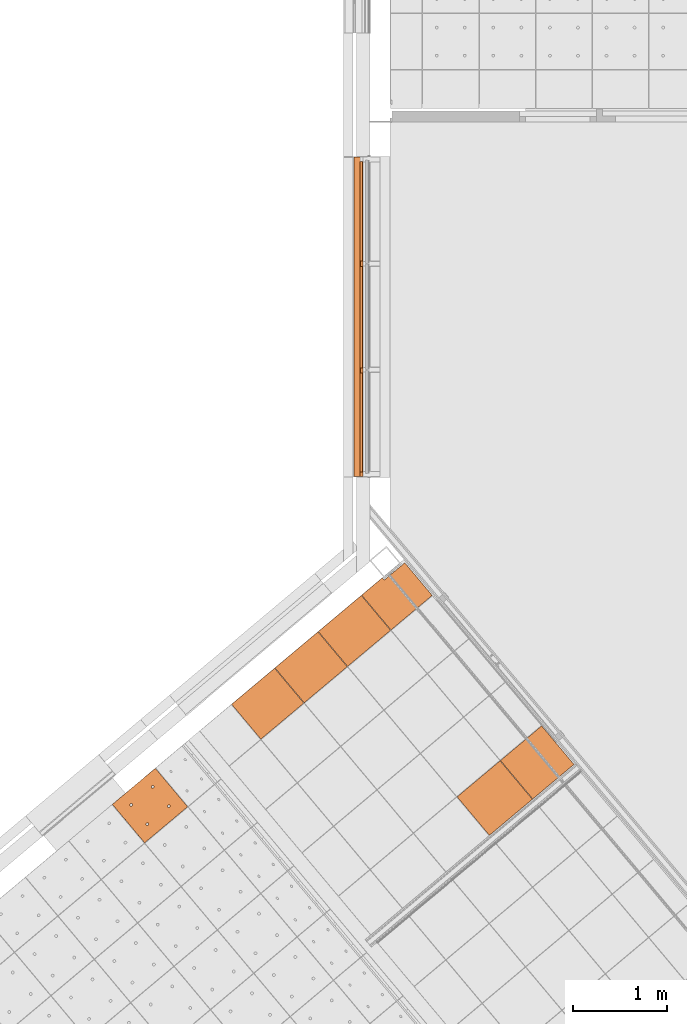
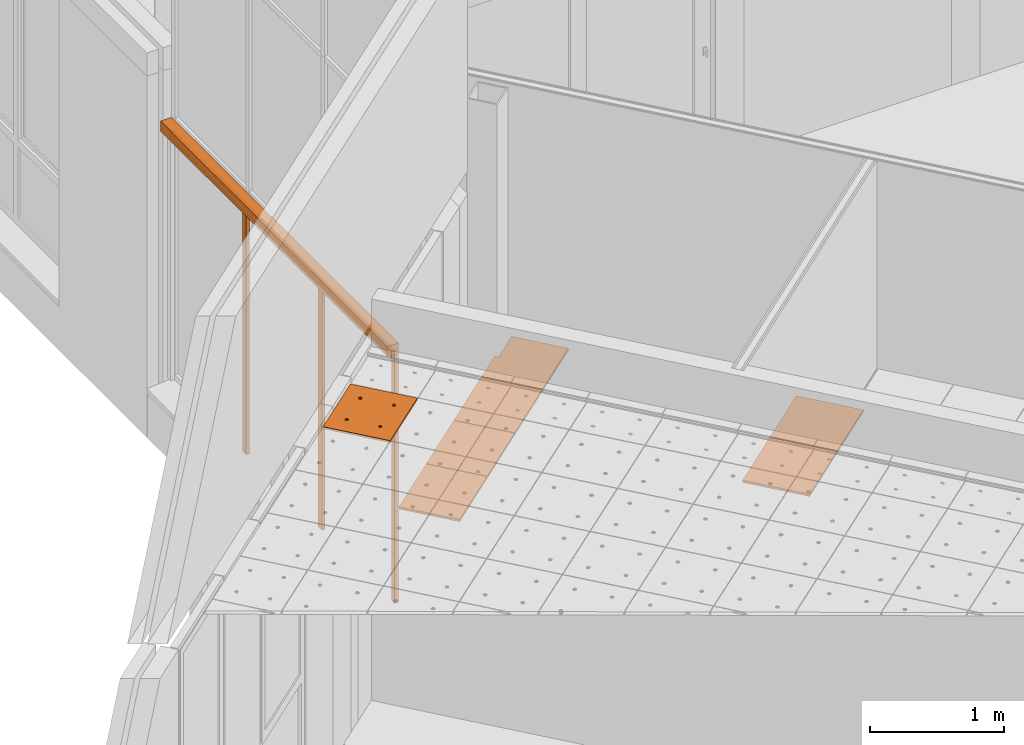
# One storey, part 315 of 338: 12 proxies, 2 elements without a shape of their own.
"""IFC2X3 building model written with IfcOpenShell, lengths in millimetres."""

import ifcopenshell
import ifcopenshell.guid

model = None  # the IFC model being written
_history = None  # IfcOwnerHistory: only IFC2X3 demands one
_inside = {}  # id of a spatial element -> (the spatial element, [elements in it])
_under = {}  # id of a project, library or spatial element -> (it, [spatial elements below it])
_declared = {}  # id of a project -> (the project, [libraries it declares])
_typed = {}  # id of a type object -> (the type object, [elements of that type])
_made_of = {}  # id of a material, layer set ... -> (it, [elements and type objects made of it])


def new_model(schema):
    """Start an empty IFC model of exactly this schema.

    Asked for "IFC4X3", IfcOpenShell would pick the latest addendum, in which some entities
    have other attributes; the version numbers below select the first issue.
    IFC2X3 requires an IfcOwnerHistory on every rooted entity: one is made here for all.
    """
    global model, _history
    if schema == "IFC4X3":
        model = ifcopenshell.file(schema_version=(4, 3, 0, 0))
    else:
        model = ifcopenshell.file(schema=schema)
    _inside.clear()
    _under.clear()
    _declared.clear()
    _typed.clear()
    _made_of.clear()
    _history = None
    if model.schema == "IFC2X3":
        org = make("IfcOrganization", Name="unknown")
        user = make(
            "IfcPersonAndOrganization",
            ThePerson=make("IfcPerson", FamilyName="unknown"),
            TheOrganization=org,
        )
        app = make(
            "IfcApplication",
            ApplicationDeveloper=org,
            Version="unknown",
            ApplicationFullName="unknown",
            ApplicationIdentifier="unknown",
        )
        _history = make(
            "IfcOwnerHistory",
            OwningUser=user,
            OwningApplication=app,
            ChangeAction="ADDED",
            CreationDate=0,
        )
    return model


def make(cls, **values):
    """One entity of the class cls with the attributes given. An attribute that is None is left unset."""
    return model.create_entity(
        cls, **{name: value for name, value in values.items() if value is not None}
    )


def entity(cls, *values):
    """Any entity or typed value of the class cls, its attributes in the order of the schema. None: left unset."""
    e = model.create_entity(cls)
    for i, value in enumerate(values):
        if value is not None:
            e[i] = value
    return e


def rooted(cls, **values):
    """An entity with a GlobalId (a new one), such as an element, a storey or a relation."""
    return make(cls, GlobalId=ifcopenshell.guid.new(), OwnerHistory=_history, **values)


def si_unit(unit_type, name, prefix=None):
    """IfcSIUnit, for example si_unit("LENGTHUNIT", "METRE", prefix="MILLI")."""
    return make("IfcSIUnit", UnitType=unit_type, Prefix=prefix, Name=name)


def converted_unit(unit_type, name, factor, base, dimensions=None, offset=None):
    """IfcConversionBasedUnit, such as the inch: factor (a typed value) times the base unit."""
    return make(
        "IfcConversionBasedUnit"
        if offset is None
        else "IfcConversionBasedUnitWithOffset",
        ConversionOffset=offset,
        Dimensions=None
        if dimensions is None
        else entity("IfcDimensionalExponents", *dimensions),
        UnitType=unit_type,
        Name=name,
        ConversionFactor=make(
            "IfcMeasureWithUnit", ValueComponent=factor, UnitComponent=base
        ),
    )


def derived_unit(unit_type, elements):
    """IfcDerivedUnit: a product of units, each with its exponent."""
    return make(
        "IfcDerivedUnit",
        Elements=[
            make("IfcDerivedUnitElement", Unit=unit, Exponent=power)
            for unit, power in elements
        ],
        UnitType=unit_type,
    )


def money_unit(currency):
    """IfcMonetaryUnit."""
    return make("IfcMonetaryUnit", Currency=currency)


def assignment(units):
    """IfcUnitAssignment: the units of a project."""
    return None if units is None else make("IfcUnitAssignment", Units=units)


def point(xyz):
    """IfcCartesianPoint."""
    return None if xyz is None else make("IfcCartesianPoint", Coordinates=xyz)


def direction(xyz):
    """IfcDirection."""
    return None if xyz is None else make("IfcDirection", DirectionRatios=xyz)


def frame(location, z_axis=None, x_axis=None):
    """IfcAxis2Placement3D, a coordinate frame: its origin and axes. An axis left out is left unset."""
    return make(
        "IfcAxis2Placement3D",
        Location=point(location),
        Axis=direction(z_axis),
        RefDirection=direction(x_axis),
    )


def origin_with_axes():
    """The frame at (0, 0, 0) with the z axis (0, 0, 1) and the x axis (1, 0, 0) written out."""
    return frame((0.0, 0.0, 0.0), z_axis=(0.0, 0.0, 1.0), x_axis=(1.0, 0.0, 0.0))


def place(relative_to, where):
    """IfcLocalPlacement: puts the frame where relative to a parent placement (None: the world)."""
    return make(
        "IfcLocalPlacement", PlacementRelTo=relative_to, RelativePlacement=where
    )


def context(
    kind, dimensions, precision=None, world=None, true_north=None, identifier=None
):
    """IfcGeometricRepresentationContext, for example the 3D "Model" context."""
    return make(
        "IfcGeometricRepresentationContext",
        ContextIdentifier=identifier,
        ContextType=kind,
        CoordinateSpaceDimension=dimensions,
        Precision=precision,
        WorldCoordinateSystem=world,
        TrueNorth=true_north,
    )


def subcontext(parent, identifier, kind, view, scale=None):
    """IfcGeometricRepresentationSubContext, for example "Body" below "Model"."""
    return make(
        "IfcGeometricRepresentationSubContext",
        ContextIdentifier=identifier,
        ContextType=kind,
        ParentContext=parent,
        TargetScale=scale,
        TargetView=view,
    )


def project(units=None, contexts=None):
    """IfcProject with its units and contexts."""
    return rooted(
        "IfcProject",
        Name="project",
        RepresentationContexts=contexts,
        UnitsInContext=assignment(units),
    )


def spatial(cls, under=None, at=None, **own):
    """A site, building, storey or space (cls), placed at a placement, below another one or the project."""
    s = rooted(cls, ObjectPlacement=at, **own)
    if under is not None:
        _under.setdefault(under.id(), (under, []))[1].append(s)
    return s


def faces_of(points, faces, orient=None, outer=None):
    """IfcFace entities. A face is a list of loops; a loop is a list of indices into points, from 0.

    orient and outer hold one flag for each loop. By default every Orientation is true, the
    first loop of a face is its IfcFaceOuterBound and the others are IfcFaceBound.
    """
    made = []
    for i, loops in enumerate(faces):
        bounds = []
        for j, loop in enumerate(loops):
            is_outer = j == 0 if outer is None else outer[i][j]
            bounds.append(
                make(
                    "IfcFaceOuterBound" if is_outer else "IfcFaceBound",
                    Bound=make("IfcPolyLoop", Polygon=[points[k] for k in loop]),
                    Orientation=True if orient is None else orient[i][j],
                )
            )
        made.append(make("IfcFace", Bounds=bounds))
    return made


def faceted_brep(points, faces, orient=None, outer=None, voids=None):
    """IfcFacetedBrep: a solid bounded by flat faces; with voids (closed shells), ...WithVoids."""
    shared = [point(p) for p in points]
    hull = make("IfcClosedShell", CfsFaces=faces_of(shared, faces, orient, outer))
    if voids is None:
        return make("IfcFacetedBrep", Outer=hull)
    return make(
        "IfcFacetedBrepWithVoids",
        Outer=hull,
        Voids=[
            make(cls, CfsFaces=faces_of(shared, fs, o, b)) for cls, fs, o, b in voids
        ],
    )


def shape(context_of_items, identifier, shape_type, items):
    """IfcShapeRepresentation: the items that make up one representation, for example the "Body"."""
    return make(
        "IfcShapeRepresentation",
        ContextOfItems=context_of_items,
        RepresentationIdentifier=identifier,
        RepresentationType=shape_type,
        Items=items,
    )


def material(Name=None, Category=None):
    """IfcMaterial."""
    return make("IfcMaterial", Name=Name, Category=Category)


def made_of(thing, what):
    """Note that an element or type object is made of a material, layer set ...; save() writes the relation."""
    if what is not None:
        _made_of.setdefault(what.id(), (what, []))[1].append(thing)
    return thing


def type_object(cls, material=None, **own):
    """A type object (cls), such as IfcWallType, which elements share."""
    return made_of(rooted(cls, **own), material)


def element(
    cls,
    number,
    at=None,
    inside=None,
    cuts=None,
    type_object=None,
    material=None,
    context=None,
    identifier="Body",
    shape_type=None,
    held_by="IfcProductDefinitionShape",
    body=None,
    shapes=None,
    **own,
):
    """One element of the class cls, such as IfcWall. Its Tag is "e" and its number.

    at: its placement. inside: the storey or other place that contains it. cuts: it is an
    opening in that element (IfcRelVoidsElement). A single representation is given by context,
    identifier, shape_type and body (its items); several are given by shapes. held_by: the class
    of the entity that holds the representations. save() writes the other relations.
    """
    e = rooted(cls, Tag="e%d" % number, ObjectPlacement=at, **own)
    if body is not None:
        shapes = [shape(context, identifier, shape_type, body)]
    if shapes is not None:
        e.Representation = make(held_by, Representations=shapes)
    if inside is not None:
        _inside.setdefault(inside.id(), (inside, []))[1].append(e)
    if cuts is not None:
        rooted(
            "IfcRelVoidsElement", RelatingBuildingElement=cuts, RelatedOpeningElement=e
        )
    if type_object is not None:
        _typed.setdefault(type_object.id(), (type_object, []))[1].append(e)
    return made_of(e, material)


def aggregate(whole, parts):
    """IfcRelAggregates: a whole, such as a stair, and the parts it consists of."""
    return rooted("IfcRelAggregates", RelatingObject=whole, RelatedObjects=parts)


def save(model, path):
    """Write the relations noted so far, then the file.

    IfcRelAggregates (storeys below a building ...), IfcRelContainedInSpatialStructure (elements
    in a storey), IfcRelDefinesByType, IfcRelAssociatesMaterial and IfcRelDeclares: one each for
    every whole, place, type object, material and project.
    """
    for whole, parts in _under.values():
        aggregate(whole, parts)
    for where, things in _inside.values():
        rooted(
            "IfcRelContainedInSpatialStructure",
            RelatedElements=things,
            RelatingStructure=where,
        )
    for kind, things in _typed.values():
        rooted("IfcRelDefinesByType", RelatedObjects=things, RelatingType=kind)
    for what, things in _made_of.values():
        rooted("IfcRelAssociatesMaterial", RelatedObjects=things, RelatingMaterial=what)
    for by, libraries in _declared.values():
        rooted("IfcRelDeclares", RelatingContext=by, RelatedDefinitions=libraries)
    model.write(path)


model = new_model("IFC2X3")

# Units and contexts
model_context = context("Model", 3, precision=0.01, world=origin_with_axes(), true_north=direction((0.0, 1.0)))
plan_context = context("Plan", 3, precision=0.01, world=origin_with_axes(), true_north=direction((0.0, 1.0)))
body_context = subcontext(model_context, "Body", "Model", "MODEL_VIEW")
ifc_project = project(units=[si_unit("LENGTHUNIT", "METRE", prefix="MILLI"), si_unit("AREAUNIT", "SQUARE_METRE"), si_unit("VOLUMEUNIT", "CUBIC_METRE"), converted_unit("PLANEANGLEUNIT", "DEGREE", entity("IfcPlaneAngleMeasure", 0.0174532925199), si_unit("PLANEANGLEUNIT", "RADIAN"), dimensions=[0, 0, 0, 0, 0, 0, 0]), money_unit("EUR"), converted_unit("TIMEUNIT", "Year", entity("IfcTimeMeasure", 31556926.0), si_unit("TIMEUNIT", "SECOND"), dimensions=[0, 0, 1, 0, 0, 0, 0]), si_unit("MASSUNIT", "GRAM", prefix="KILO"), si_unit("THERMODYNAMICTEMPERATUREUNIT", "DEGREE_CELSIUS"), si_unit("LUMINOUSINTENSITYUNIT", "LUMEN"), si_unit("ENERGYUNIT", "JOULE", prefix="MEGA"), derived_unit("THERMALCONDUCTANCEUNIT", [(si_unit("POWERUNIT", "WATT"), 1), (si_unit("LENGTHUNIT", "METRE"), -1), (si_unit("THERMODYNAMICTEMPERATUREUNIT", "KELVIN"), -1)]), derived_unit("SPECIFICHEATCAPACITYUNIT", [(si_unit("ENERGYUNIT", "JOULE"), 1), (si_unit("MASSUNIT", "GRAM", prefix="KILO"), -1), (si_unit("THERMODYNAMICTEMPERATUREUNIT", "KELVIN"), -1)]), derived_unit("MASSDENSITYUNIT", [(si_unit("MASSUNIT", "GRAM", prefix="KILO"), 1), (si_unit("VOLUMEUNIT", "CUBIC_METRE"), -1)])], contexts=[model_context, plan_context])

# Site, building, storey
site_placement = place(None, origin_with_axes())
site = spatial("IfcSite", under=ifc_project, at=site_placement, Name="Fortuinstraat Woensdrecht", CompositionType="ELEMENT")
building_placement = place(site_placement, origin_with_axes())
building = spatial("IfcBuilding", under=site, at=building_placement, Name="IKC Fortuna", CompositionType="ELEMENT")
storey_placement = place(building_placement, origin_with_axes())
storey = spatial("IfcBuildingStorey", under=building, at=storey_placement, Name="00 begane grond", CompositionType="ELEMENT", Elevation=0.0)

# Covering, proxies
covering_type = type_object("IfcCoveringType", Name="Curtain Wall Type", PredefinedType="CEILING")
covering_1_placement = place(storey_placement, frame((13600.915258, 7795.68497331, 2810.0), z_axis=(0.0, 0.0, 1.0), x_axis=(1.0, 0.0, 0.0)))
covering_1 = element("IfcCovering", 1, at=covering_1_placement, inside=storey, type_object=covering_type, Name="45_Plafondafwerking_P02 gec", PredefinedType="CEILING")
ifc_material_1 = material(Name="Gipsplaat")
building_element_proxy_type_1 = type_object("IfcBuildingElementProxyType", Name="Distinct Panel 600 x 538 x 20", PredefinedType="NOTDEFINED")
proxy_1_placement = place(covering_1_placement, frame((1317.50066805, 1105.51467406, 0.0), z_axis=(0.0, 0.0, 1.0), x_axis=(1.0, 0.0, 0.0)))
proxy_1 = element("IfcBuildingElementProxy", 2, at=proxy_1_placement, type_object=building_element_proxy_type_1, material=ifc_material_1, Name="__Panel-D", context=body_context, shape_type="Brep", body=[
    faceted_brep([(56.6683935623, 395.293008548, -10.0), (56.6683935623, 395.293008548, 9.99999999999), (399.127985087, -12.8343153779, 9.99999999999), (399.127985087, -12.8343153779, -10.0), (-399.127985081, 12.8343142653, -10.0), (-399.127985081, 12.8343142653, 9.99999999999), (-56.6683935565, -395.293009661, 9.99999999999), (-56.6683935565, -395.293009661, -10.0)], [[[0, 1, 2, 3]], [[4, 5, 1, 0]], [[1, 5, 6, 2]], [[3, 2, 6, 7]], [[0, 3, 7, 4]], [[7, 6, 5, 4]]]),
])
building_element_proxy_type_2 = type_object("IfcBuildingElementProxyType", Name="Distinct Panel 600 x 488 x 20", PredefinedType="NOTDEFINED")
proxy_2_placement = place(covering_1_placement, frame((-1088.37415293, 2105.85549256, 0.0), z_axis=(0.0, 0.0, 1.0), x_axis=(1.0, 0.0, 0.0)))
proxy_2 = element("IfcBuildingElementProxy", 3, at=proxy_2_placement, type_object=building_element_proxy_type_2, material=ifc_material_1, Name="__Panel-D", context=body_context, shape_type="Brep", body=[
    faceted_brep([(72.7382213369, 376.141744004, -10.0), (72.7382213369, 376.141744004, 9.99999999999), (383.058146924, 6.31696483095, 9.99999999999), (383.058146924, 6.31696483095, -10.0), (-383.058158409, -6.31696376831, -10.0), (-383.058158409, -6.31696376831, 9.99999999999), (-72.7382328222, -376.141742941, 9.99999999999), (-72.7382328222, -376.141742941, -10.0)], [[[0, 1, 2, 3]], [[4, 5, 1, 0]], [[1, 5, 6, 2]], [[3, 2, 6, 7]], [[0, 3, 7, 4]], [[7, 6, 5, 4]]]),
])
proxy_3_placement = place(covering_1_placement, frame((-169.12093816, 2877.20076359, 0.0), z_axis=(0.0, 0.0, 1.0), x_axis=(1.0, 0.0, 0.0)))
proxy_3 = element("IfcBuildingElementProxy", 4, at=proxy_3_placement, type_object=building_element_proxy_type_2, material=ifc_material_1, Name="__Panel-D", context=body_context, shape_type="Brep", body=[
    faceted_brep([(72.7382294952, 376.141721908, -10.0), (72.7382294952, 376.141721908, 9.99999999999), (383.058145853, 6.31696302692, 9.99999999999), (383.058145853, 6.31696302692, -10.0), (-383.058153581, -6.31696566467, -10.0), (-383.058153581, -6.31696566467, 9.99999999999), (-72.738225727, -376.141736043, 9.99999999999), (-72.738225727, -376.141736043, -10.0)], [[[0, 1, 2, 3]], [[4, 5, 1, 0]], [[1, 5, 6, 2]], [[3, 2, 6, 7]], [[0, 3, 7, 4]], [[7, 6, 5, 4]]]),
])
proxy_4_placement = place(covering_1_placement, frame((-628.747546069, 2491.5281287, 0.0), z_axis=(0.0, 0.0, 1.0), x_axis=(1.0, 0.0, 0.0)))
proxy_4 = element("IfcBuildingElementProxy", 5, at=proxy_4_placement, type_object=building_element_proxy_type_2, material=ifc_material_1, Name="__Panel-D", context=body_context, shape_type="Brep", body=[
    faceted_brep([(72.7382246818, 376.141749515, -10.0), (72.7382246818, 376.141749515, 9.99999999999), (383.058141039, 6.31695614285, 9.99999999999), (383.058141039, 6.31695614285, -10.0), (-383.058146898, -6.31697254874, -10.0), (-383.058146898, -6.31697254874, 9.99999999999), (-72.7382305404, -376.14173143, 9.99999999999), (-72.7382305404, -376.14173143, -10.0)], [[[0, 1, 2, 3]], [[4, 5, 1, 0]], [[1, 5, 6, 2]], [[3, 2, 6, 7]], [[0, 3, 7, 4]], [[7, 6, 5, 4]]]),
])
building_element_proxy_type_3 = type_object("IfcBuildingElementProxyType", Name="Distinct Panel 575 x 538 x 20", PredefinedType="NOTDEFINED")
proxy_5_placement = place(covering_1_placement, frame((1767.64728011, 1483.23264462, 0.0), z_axis=(0.0, 0.0, 1.0), x_axis=(1.0, 0.0, 0.0)))
proxy_5 = element("IfcBuildingElementProxy", 6, at=proxy_5_placement, type_object=building_element_proxy_type_3, material=ifc_material_1, Name="__Panel-D", context=body_context, shape_type="Brep", body=[
    faceted_brep([(47.188385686, 387.338350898, -10.0), (47.188385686, 387.338350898, 9.99999999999), (389.647989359, -20.7889956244, 9.99999999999), (389.647989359, -20.7889956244, -10.0), (-389.64798644, 20.7889839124, -10.0), (-389.64798644, 20.7889839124, 9.99999999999), (-47.1884061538, -387.338339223, 9.99999999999), (-47.1884061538, -387.338339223, -10.0)], [[[0, 1, 2, 3]], [[4, 5, 1, 0]], [[1, 5, 6, 2]], [[3, 2, 6, 7]], [[0, 3, 7, 4]], [[7, 6, 5, 4]]]),
])
building_element_proxy_type_4 = type_object("IfcBuildingElementProxyType", Name="Distinct Panel 575 x 457 x 20", PredefinedType="NOTDEFINED")
proxy_6_placement = place(covering_1_placement, frame((236.029240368, 3309.74641724, 0.0), z_axis=(0.0, 0.0, 1.0), x_axis=(1.0, 0.0, 0.0)))
proxy_6 = element("IfcBuildingElementProxy", 7, at=proxy_6_placement, type_object=building_element_proxy_type_4, material=ifc_material_1, Name="__Panel-D", context=body_context, shape_type="Brep", body=[
    faceted_brep([(128.254246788, 289.52550103, -10.0), (128.254246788, 289.52550103, 9.99999999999), (418.574586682, -56.4653811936, 9.99999999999), (418.574586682, -56.4653811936, -10.0), (-90.2997090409, 106.131747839, -10.0), (-90.2997090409, 106.131747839, 9.99999999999), (-110.301795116, 129.968686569, 9.99999999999), (-328.581723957, -53.1899876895, 9.99999999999), (-18.2618100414, -423.014747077, 9.99999999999), (-18.2618100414, -423.014747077, -10.0), (-328.581723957, -53.1899876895, -10.0), (-110.301795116, 129.968686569, -10.0)], [[[0, 1, 2, 3]], [[4, 5, 1, 0]], [[1, 5, 6, 7, 8, 2]], [[3, 2, 8, 9]], [[0, 3, 9, 10, 11, 4]], [[11, 6, 5, 4]], [[10, 7, 6, 11]], [[9, 8, 7, 10]]]),
])
aggregate(covering_1, [proxy_2, proxy_3, proxy_5, proxy_1, proxy_6, proxy_4])

# Covering, proxy
covering_2_placement = place(storey_placement, frame((15863.124366, 4456.31398675, 4619.99995334), z_axis=(0.0, 0.0, 1.0), x_axis=(1.0, 0.0, 0.0)))
covering_2 = element("IfcCovering", 8, at=covering_2_placement, inside=storey, type_object=covering_type, Name="45_Plafondafwerking_P01", PredefinedType="CEILING")
building_element_proxy_type_5 = type_object("IfcBuildingElementProxyType", Name="Main Panel 148 x 18 x 20", PredefinedType="NOTDEFINED")
proxy_7_placement = place(covering_2_placement, frame((-4668.68124348, 4476.22786632, 3.69299126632), z_axis=(0.0, 0.0, 1.0), x_axis=(0.642787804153, -0.766044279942, 0.0)))
proxy_7 = element("IfcBuildingElementProxy", 9, at=proxy_7_placement, type_object=building_element_proxy_type_5, material=ifc_material_1, Name="__600x932 Rockfon Krios", context=body_context, shape_type="Brep", body=[
    faceted_brep([(-136.427030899, 279.906067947, -11.5130608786), (-136.427030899, -17.5895890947, -9.90507292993), (-136.427030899, -17.4814890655, 10.0946349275), (-136.427030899, 280.014167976, 8.48664697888), (129.868838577, 279.906067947, -11.5130608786), (396.164708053, 279.906067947, -11.5130608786), (396.164708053, -17.5895890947, -9.90507292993), (396.164708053, -315.085246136, -8.29708498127), (129.868838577, -315.085246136, -8.29708498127), (-136.427030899, -315.085246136, -8.29708498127), (264.19145582, 116.158458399, -10.6279918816), (266.505128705, 116.614219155, -10.6304553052), (268.712809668, 117.511892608, -10.6353073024), (270.747419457, 118.824203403, -10.6424004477), (272.547137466, 120.511277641, -10.6515192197), (274.05728019, 122.521854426, -10.6623865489), (275.231962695, 124.794843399, -10.674672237), (276.035492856, 127.26118094, -10.6880029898), (276.44345581, 129.845928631, -10.7019737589), (276.44345581, 132.470550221, -10.7161600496), (276.035492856, 135.055297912, -10.7301308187), (275.231962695, 137.521635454, -10.7434615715), (274.05728019, 139.794624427, -10.7557472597), (272.547137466, 141.80520121, -10.7666145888), (270.747419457, 143.492275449, -10.7757333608), (268.712809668, 144.804586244, -10.7828265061), (266.505128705, 145.702259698, -10.7876785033), (264.19145582, 146.158020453, -10.7901419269), (263.016773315, 146.158020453, -10.7901419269), (261.842090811, 146.158020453, -10.7901419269), (259.528417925, 145.702259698, -10.7876785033), (257.320736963, 144.804586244, -10.7828265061), (255.286127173, 143.492275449, -10.7757333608), (253.486409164, 141.80520121, -10.7666145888), (251.97626644, 139.794624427, -10.7557472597), (250.801583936, 137.521635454, -10.7434615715), (249.998053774, 135.055297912, -10.7301308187), (249.59009082, 132.470550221, -10.7161600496), (249.59009082, 129.845928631, -10.7019737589), (249.998053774, 127.26118094, -10.6880029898), (250.801583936, 124.794843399, -10.674672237), (251.97626644, 122.521854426, -10.6623865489), (253.486409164, 120.511277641, -10.6515192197), (255.286127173, 118.824203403, -10.6424004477), (257.320736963, 117.511892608, -10.6353073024), (259.528417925, 116.614219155, -10.6304553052), (261.842090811, 116.158458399, -10.6279918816), (264.19145582, -181.337198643, -9.02000393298), (266.505128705, -180.881437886, -9.02246735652), (268.712809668, -179.983764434, -9.02731935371), (270.747419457, -178.671453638, -9.03441249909), (272.547137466, -176.9843794, -9.04353127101), (274.05728019, -174.973802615, -9.0543986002), (275.231962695, -172.700813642, -9.06668428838), (276.035492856, -170.234476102, -9.08001504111), (276.44345581, -167.649728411, -9.09398581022), (276.44345581, -165.02510682, -9.10817210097), (276.035492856, -162.440359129, -9.12214287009), (275.231962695, -159.974021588, -9.13547362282), (274.05728019, -157.701032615, -9.147759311), (272.547137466, -155.690455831, -9.15862664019), (270.747419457, -154.003381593, -9.16774541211), (268.712809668, -152.691070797, -9.17483855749), (266.505128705, -151.793397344, -9.17969055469), (264.19145582, -151.337636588, -9.18215397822), (263.016773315, -151.337636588, -9.18215397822), (261.842090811, -151.337636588, -9.18215397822), (259.528417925, -151.793397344, -9.17969055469), (257.320736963, -152.691070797, -9.17483855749), (255.286127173, -154.003381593, -9.16774541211), (253.486409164, -155.690455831, -9.15862664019), (251.97626644, -157.701032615, -9.147759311), (250.801583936, -159.974021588, -9.13547362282), (249.998053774, -162.440359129, -9.12214287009), (249.59009082, -165.02510682, -9.10817210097), (249.59009082, -167.649728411, -9.09398581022), (249.998053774, -170.234476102, -9.08001504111), (250.801583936, -172.700813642, -9.06668428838), (251.97626644, -174.973802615, -9.0543986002), (253.486409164, -176.9843794, -9.04353127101), (255.286127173, -178.671453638, -9.03441249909), (257.320736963, -179.983764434, -9.02731935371), (259.528417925, -180.881437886, -9.02246735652), (261.842090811, -181.337198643, -9.02000393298), (-2.10441365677, -181.337198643, -9.02000393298), (0.209259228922, -180.881437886, -9.02246735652), (2.41694019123, -179.983764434, -9.02731935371), (4.45154998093, -178.671453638, -9.03441249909), (6.25126798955, -176.9843794, -9.04353127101), (7.76141071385, -174.973802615, -9.0543986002), (8.93609321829, -172.700813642, -9.06668428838), (9.73962337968, -170.234476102, -9.08001504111), (10.1475863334, -167.649728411, -9.09398581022), (10.1475863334, -165.02510682, -9.10817210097), (9.73962337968, -162.440359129, -9.12214287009), (8.9360932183, -159.974021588, -9.13547362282), (7.76141071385, -157.701032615, -9.147759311), (6.25126798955, -155.690455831, -9.15862664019), (4.45154998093, -154.003381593, -9.16774541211), (2.41694019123, -152.691070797, -9.17483855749), (0.209259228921, -151.793397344, -9.17969055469), (-2.10441365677, -151.337636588, -9.18215397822), (-3.27909616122, -151.337636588, -9.18215397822), (-4.45377866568, -151.337636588, -9.18215397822), (-6.76745155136, -151.793397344, -9.17969055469), (-8.97513251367, -152.691070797, -9.17483855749), (-11.0097423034, -154.003381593, -9.16774541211), (-12.809460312, -155.690455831, -9.15862664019), (-14.3196030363, -157.701032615, -9.147759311), (-15.4942855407, -159.974021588, -9.13547362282), (-16.2978157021, -162.440359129, -9.12214287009), (-16.7057786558, -165.02510682, -9.10817210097), (-16.7057786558, -167.649728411, -9.09398581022), (-16.2978157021, -170.234476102, -9.08001504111), (-15.4942855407, -172.700813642, -9.06668428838), (-14.3196030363, -174.973802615, -9.0543986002), (-12.809460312, -176.9843794, -9.04353127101), (-11.0097423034, -178.671453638, -9.03441249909), (-8.97513251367, -179.983764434, -9.02731935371), (-6.76745155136, -180.881437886, -9.02246735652), (-4.45377866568, -181.337198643, -9.02000393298), (-2.10441365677, 116.158458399, -10.6279918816), (0.209259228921, 116.614219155, -10.6304553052), (2.41694019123, 117.511892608, -10.6353073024), (4.45154998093, 118.824203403, -10.6424004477), (6.25126798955, 120.511277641, -10.6515192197), (7.76141071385, 122.521854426, -10.6623865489), (8.9360932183, 124.794843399, -10.674672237), (9.73962337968, 127.26118094, -10.6880029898), (10.1475863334, 129.845928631, -10.7019737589), (10.1475863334, 132.470550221, -10.7161600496), (9.73962337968, 135.055297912, -10.7301308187), (8.9360932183, 137.521635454, -10.7434615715), (7.76141071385, 139.794624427, -10.7557472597), (6.25126798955, 141.80520121, -10.7666145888), (4.45154998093, 143.492275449, -10.7757333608), (2.41694019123, 144.804586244, -10.7828265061), (0.20925922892, 145.702259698, -10.7876785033), (-2.10441365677, 146.158020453, -10.7901419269), (-3.27909616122, 146.158020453, -10.7901419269), (-4.45377866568, 146.158020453, -10.7901419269), (-6.76745155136, 145.702259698, -10.7876785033), (-8.97513251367, 144.804586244, -10.7828265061), (-11.0097423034, 143.492275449, -10.7757333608), (-12.809460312, 141.80520121, -10.7666145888), (-14.3196030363, 139.794624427, -10.7557472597), (-15.4942855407, 137.521635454, -10.7434615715), (-16.2978157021, 135.055297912, -10.7301308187), (-16.7057786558, 132.470550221, -10.7161600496), (-16.7057786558, 129.845928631, -10.7019737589), (-16.2978157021, 127.26118094, -10.6880029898), (-15.4942855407, 124.794843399, -10.674672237), (-14.3196030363, 122.521854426, -10.6623865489), (-12.809460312, 120.511277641, -10.6515192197), (-11.0097423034, 118.824203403, -10.6424004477), (-8.97513251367, 117.511892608, -10.6353073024), (-6.76745155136, 116.614219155, -10.6304553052), (-4.45377866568, 116.158458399, -10.6279918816), (-136.427030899, -314.977146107, 11.7026228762), (129.868838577, -314.977146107, 11.7026228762), (396.164708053, -314.977146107, 11.7026228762), (396.164708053, -17.4814890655, 10.0946349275), (396.164708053, 280.014167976, 8.48664697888), (129.868838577, 280.014167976, 8.48664697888), (264.19145582, 116.266558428, 9.37171597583), (261.842090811, 116.266558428, 9.37171597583), (259.528417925, 116.722319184, 9.36925255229), (257.320736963, 117.619992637, 9.3644005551), (255.286127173, 118.932303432, 9.35730740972), (253.486409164, 120.619377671, 9.3481886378), (251.97626644, 122.629954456, 9.3373213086), (250.801583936, 124.902943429, 9.32503562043), (249.998053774, 127.369280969, 9.3117048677), (249.59009082, 129.95402866, 9.29773409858), (249.59009082, 132.578650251, 9.28354780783), (249.998053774, 135.163397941, 9.26957703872), (250.801583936, 137.629735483, 9.25624628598), (251.97626644, 139.902724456, 9.24396059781), (253.486409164, 141.91330124, 9.23309326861), (255.286127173, 143.600375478, 9.22397449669), (257.320736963, 144.912686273, 9.21688135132), (259.528417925, 145.810359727, 9.21202935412), (261.842090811, 146.266120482, 9.20956593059), (263.016773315, 146.266120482, 9.20956593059), (264.19145582, 146.266120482, 9.20956593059), (266.505128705, 145.810359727, 9.21202935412), (268.712809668, 144.912686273, 9.21688135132), (270.747419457, 143.600375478, 9.22397449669), (272.547137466, 141.91330124, 9.23309326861), (274.05728019, 139.902724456, 9.24396059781), (275.231962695, 137.629735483, 9.25624628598), (276.035492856, 135.163397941, 9.26957703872), (276.44345581, 132.578650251, 9.28354780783), (276.44345581, 129.95402866, 9.29773409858), (276.035492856, 127.369280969, 9.3117048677), (275.231962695, 124.902943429, 9.32503562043), (274.05728019, 122.629954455, 9.3373213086), (272.547137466, 120.619377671, 9.3481886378), (270.747419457, 118.932303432, 9.35730740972), (268.712809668, 117.619992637, 9.3644005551), (266.505128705, 116.722319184, 9.36925255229), (264.19145582, -181.229098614, 10.9797039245), (261.842090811, -181.229098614, 10.9797039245), (259.528417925, -180.773337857, 10.9772405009), (257.320736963, -179.875664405, 10.9723885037), (255.286127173, -178.563353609, 10.9652953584), (253.486409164, -176.876279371, 10.9561765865), (251.97626644, -174.865702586, 10.9453092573), (250.801583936, -172.592713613, 10.9330235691), (249.998053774, -170.126376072, 10.9196928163), (249.59009082, -167.541628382, 10.9057220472), (249.59009082, -164.917006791, 10.8915357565), (249.998053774, -162.3322591, 10.8775649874), (250.801583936, -159.865921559, 10.8642342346), (251.97626644, -157.592932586, 10.8519485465), (253.486409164, -155.582355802, 10.8410812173), (255.286127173, -153.895281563, 10.8319624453), (257.320736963, -152.582970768, 10.8248693), (259.528417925, -151.685297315, 10.8200173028), (261.842090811, -151.229536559, 10.8175538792), (263.016773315, -151.229536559, 10.8175538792), (264.19145582, -151.229536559, 10.8175538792), (266.505128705, -151.685297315, 10.8200173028), (268.712809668, -152.582970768, 10.8248693), (270.747419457, -153.895281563, 10.8319624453), (272.547137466, -155.582355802, 10.8410812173), (274.05728019, -157.592932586, 10.8519485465), (275.231962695, -159.865921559, 10.8642342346), (276.035492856, -162.3322591, 10.8775649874), (276.44345581, -164.917006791, 10.8915357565), (276.44345581, -167.541628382, 10.9057220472), (276.035492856, -170.126376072, 10.9196928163), (275.231962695, -172.592713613, 10.9330235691), (274.05728019, -174.865702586, 10.9453092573), (272.547137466, -176.876279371, 10.9561765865), (270.747419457, -178.563353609, 10.9652953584), (268.712809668, -179.875664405, 10.9723885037), (266.505128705, -180.773337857, 10.9772405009), (-2.10441365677, -181.229098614, 10.9797039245), (-4.45377866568, -181.229098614, 10.9797039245), (-6.76745155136, -180.773337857, 10.9772405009), (-8.97513251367, -179.875664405, 10.9723885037), (-11.0097423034, -178.563353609, 10.9652953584), (-12.809460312, -176.876279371, 10.9561765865), (-14.3196030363, -174.865702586, 10.9453092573), (-15.4942855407, -172.592713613, 10.9330235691), (-16.2978157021, -170.126376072, 10.9196928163), (-16.7057786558, -167.541628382, 10.9057220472), (-16.7057786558, -164.917006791, 10.8915357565), (-16.2978157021, -162.3322591, 10.8775649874), (-15.4942855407, -159.865921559, 10.8642342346), (-14.3196030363, -157.592932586, 10.8519485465), (-12.809460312, -155.582355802, 10.8410812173), (-11.0097423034, -153.895281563, 10.8319624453), (-8.97513251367, -152.582970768, 10.8248693), (-6.76745155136, -151.685297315, 10.8200173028), (-4.45377866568, -151.229536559, 10.8175538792), (-3.27909616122, -151.229536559, 10.8175538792), (-2.10441365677, -151.229536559, 10.8175538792), (0.209259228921, -151.685297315, 10.8200173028), (2.41694019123, -152.582970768, 10.8248693), (4.45154998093, -153.895281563, 10.8319624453), (6.25126798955, -155.582355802, 10.8410812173), (7.76141071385, -157.592932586, 10.8519485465), (8.93609321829, -159.865921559, 10.8642342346), (9.73962337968, -162.3322591, 10.8775649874), (10.1475863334, -164.917006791, 10.8915357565), (10.1475863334, -167.541628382, 10.9057220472), (9.73962337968, -170.126376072, 10.9196928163), (8.93609321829, -172.592713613, 10.9330235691), (7.76141071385, -174.865702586, 10.9453092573), (6.25126798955, -176.876279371, 10.9561765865), (4.45154998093, -178.563353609, 10.9652953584), (2.41694019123, -179.875664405, 10.9723885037), (0.20925922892, -180.773337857, 10.9772405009), (-2.10441365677, 116.266558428, 9.37171597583), (-4.45377866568, 116.266558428, 9.37171597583), (-6.76745155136, 116.722319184, 9.36925255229), (-8.97513251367, 117.619992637, 9.3644005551), (-11.0097423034, 118.932303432, 9.35730740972), (-12.809460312, 120.619377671, 9.3481886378), (-14.3196030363, 122.629954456, 9.3373213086), (-15.4942855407, 124.902943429, 9.32503562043), (-16.2978157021, 127.369280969, 9.3117048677), (-16.7057786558, 129.95402866, 9.29773409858), (-16.7057786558, 132.578650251, 9.28354780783), (-16.2978157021, 135.163397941, 9.26957703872), (-15.4942855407, 137.629735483, 9.25624628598), (-14.3196030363, 139.902724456, 9.24396059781), (-12.809460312, 141.91330124, 9.23309326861), (-11.0097423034, 143.600375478, 9.22397449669), (-8.97513251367, 144.912686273, 9.21688135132), (-6.76745155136, 145.810359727, 9.21202935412), (-4.45377866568, 146.266120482, 9.20956593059), (-3.27909616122, 146.266120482, 9.20956593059), (-2.10441365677, 146.266120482, 9.20956593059), (0.209259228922, 145.810359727, 9.21202935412), (2.41694019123, 144.912686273, 9.21688135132), (4.45154998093, 143.600375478, 9.22397449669), (6.25126798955, 141.91330124, 9.23309326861), (7.76141071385, 139.902724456, 9.24396059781), (8.93609321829, 137.629735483, 9.25624628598), (9.73962337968, 135.163397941, 9.26957703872), (10.1475863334, 132.578650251, 9.28354780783), (10.1475863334, 129.95402866, 9.29773409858), (9.73962337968, 127.369280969, 9.3117048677), (8.93609321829, 124.902943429, 9.32503562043), (7.76141071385, 122.629954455, 9.3373213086), (6.25126798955, 120.619377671, 9.3481886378), (4.45154998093, 118.932303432, 9.35730740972), (2.41694019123, 117.619992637, 9.3644005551), (0.209259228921, 116.722319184, 9.36925255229)], [[[0, 1, 2, 3]], [[0, 4, 5, 6, 7, 8, 9, 1], [10, 11, 12, 13, 14, 15, 16, 17, 18, 19, 20, 21, 22, 23, 24, 25, 26, 27, 28, 29, 30, 31, 32, 33, 34, 35, 36, 37, 38, 39, 40, 41, 42, 43, 44, 45, 46], [47, 48, 49, 50, 51, 52, 53, 54, 55, 56, 57, 58, 59, 60, 61, 62, 63, 64, 65, 66, 67, 68, 69, 70, 71, 72, 73, 74, 75, 76, 77, 78, 79, 80, 81, 82, 83], [84, 85, 86, 87, 88, 89, 90, 91, 92, 93, 94, 95, 96, 97, 98, 99, 100, 101, 102, 103, 104, 105, 106, 107, 108, 109, 110, 111, 112, 113, 114, 115, 116, 117, 118, 119, 120], [121, 122, 123, 124, 125, 126, 127, 128, 129, 130, 131, 132, 133, 134, 135, 136, 137, 138, 139, 140, 141, 142, 143, 144, 145, 146, 147, 148, 149, 150, 151, 152, 153, 154, 155, 156, 157]], [[1, 9, 158, 2]], [[3, 2, 158, 159, 160, 161, 162, 163], [164, 165, 166, 167, 168, 169, 170, 171, 172, 173, 174, 175, 176, 177, 178, 179, 180, 181, 182, 183, 184, 185, 186, 187, 188, 189, 190, 191, 192, 193, 194, 195, 196, 197, 198, 199, 200], [201, 202, 203, 204, 205, 206, 207, 208, 209, 210, 211, 212, 213, 214, 215, 216, 217, 218, 219, 220, 221, 222, 223, 224, 225, 226, 227, 228, 229, 230, 231, 232, 233, 234, 235, 236, 237], [238, 239, 240, 241, 242, 243, 244, 245, 246, 247, 248, 249, 250, 251, 252, 253, 254, 255, 256, 257, 258, 259, 260, 261, 262, 263, 264, 265, 266, 267, 268, 269, 270, 271, 272, 273, 274], [275, 276, 277, 278, 279, 280, 281, 282, 283, 284, 285, 286, 287, 288, 289, 290, 291, 292, 293, 294, 295, 296, 297, 298, 299, 300, 301, 302, 303, 304, 305, 306, 307, 308, 309, 310, 311]], [[4, 0, 3, 163]], [[5, 4, 163, 162]], [[6, 5, 162, 161]], [[7, 6, 161, 160]], [[8, 7, 160, 159]], [[9, 8, 159, 158]], [[11, 10, 164, 200]], [[12, 11, 200, 199]], [[13, 12, 199, 198]], [[14, 13, 198, 197]], [[15, 14, 197, 196]], [[16, 15, 196, 195]], [[17, 16, 195, 194]], [[18, 17, 194, 193]], [[19, 18, 193, 192]], [[20, 19, 192, 191]], [[21, 20, 191, 190]], [[22, 21, 190, 189]], [[23, 22, 189, 188]], [[24, 23, 188, 187]], [[25, 24, 187, 186]], [[26, 25, 186, 185]], [[27, 26, 185, 184]], [[28, 27, 184, 183]], [[29, 28, 183, 182]], [[30, 29, 182, 181]], [[31, 30, 181, 180]], [[32, 31, 180, 179]], [[33, 32, 179, 178]], [[34, 33, 178, 177]], [[35, 34, 177, 176]], [[36, 35, 176, 175]], [[37, 36, 175, 174]], [[38, 37, 174, 173]], [[39, 38, 173, 172]], [[40, 39, 172, 171]], [[41, 40, 171, 170]], [[42, 41, 170, 169]], [[43, 42, 169, 168]], [[44, 43, 168, 167]], [[45, 44, 167, 166]], [[46, 45, 166, 165]], [[10, 46, 165, 164]], [[48, 47, 201, 237]], [[49, 48, 237, 236]], [[50, 49, 236, 235]], [[51, 50, 235, 234]], [[52, 51, 234, 233]], [[53, 52, 233, 232]], [[54, 53, 232, 231]], [[55, 54, 231, 230]], [[56, 55, 230, 229]], [[57, 56, 229, 228]], [[58, 57, 228, 227]], [[59, 58, 227, 226]], [[60, 59, 226, 225]], [[61, 60, 225, 224]], [[62, 61, 224, 223]], [[63, 62, 223, 222]], [[64, 63, 222, 221]], [[65, 64, 221, 220]], [[66, 65, 220, 219]], [[67, 66, 219, 218]], [[68, 67, 218, 217]], [[69, 68, 217, 216]], [[70, 69, 216, 215]], [[71, 70, 215, 214]], [[72, 71, 214, 213]], [[73, 72, 213, 212]], [[74, 73, 212, 211]], [[75, 74, 211, 210]], [[76, 75, 210, 209]], [[77, 76, 209, 208]], [[78, 77, 208, 207]], [[79, 78, 207, 206]], [[80, 79, 206, 205]], [[81, 80, 205, 204]], [[82, 81, 204, 203]], [[83, 82, 203, 202]], [[47, 83, 202, 201]], [[85, 84, 238, 274]], [[86, 85, 274, 273]], [[87, 86, 273, 272]], [[88, 87, 272, 271]], [[89, 88, 271, 270]], [[90, 89, 270, 269]], [[91, 90, 269, 268]], [[92, 91, 268, 267]], [[93, 92, 267, 266]], [[94, 93, 266, 265]], [[95, 94, 265, 264]], [[96, 95, 264, 263]], [[97, 96, 263, 262]], [[98, 97, 262, 261]], [[99, 98, 261, 260]], [[100, 99, 260, 259]], [[101, 100, 259, 258]], [[102, 101, 258, 257]], [[103, 102, 257, 256]], [[104, 103, 256, 255]], [[105, 104, 255, 254]], [[106, 105, 254, 253]], [[107, 106, 253, 252]], [[108, 107, 252, 251]], [[109, 108, 251, 250]], [[110, 109, 250, 249]], [[111, 110, 249, 248]], [[112, 111, 248, 247]], [[113, 112, 247, 246]], [[114, 113, 246, 245]], [[115, 114, 245, 244]], [[116, 115, 244, 243]], [[117, 116, 243, 242]], [[118, 117, 242, 241]], [[119, 118, 241, 240]], [[120, 119, 240, 239]], [[84, 120, 239, 238]], [[122, 121, 275, 311]], [[123, 122, 311, 310]], [[124, 123, 310, 309]], [[125, 124, 309, 308]], [[126, 125, 308, 307]], [[127, 126, 307, 306]], [[128, 127, 306, 305]], [[129, 128, 305, 304]], [[130, 129, 304, 303]], [[131, 130, 303, 302]], [[132, 131, 302, 301]], [[133, 132, 301, 300]], [[134, 133, 300, 299]], [[135, 134, 299, 298]], [[136, 135, 298, 297]], [[137, 136, 297, 296]], [[138, 137, 296, 295]], [[139, 138, 295, 294]], [[140, 139, 294, 293]], [[141, 140, 293, 292]], [[142, 141, 292, 291]], [[143, 142, 291, 290]], [[144, 143, 290, 289]], [[145, 144, 289, 288]], [[146, 145, 288, 287]], [[147, 146, 287, 286]], [[148, 147, 286, 285]], [[149, 148, 285, 284]], [[150, 149, 284, 283]], [[151, 150, 283, 282]], [[152, 151, 282, 281]], [[153, 152, 281, 280]], [[154, 153, 280, 279]], [[155, 154, 279, 278]], [[156, 155, 278, 277]], [[157, 156, 277, 276]], [[121, 157, 276, 275]]]),
])
aggregate(covering_2, [proxy_7])

# Proxies
ifc_material_2 = material(Name="Aluminium RAL 7032")
building_element_proxy_type_6 = type_object("IfcBuildingElementProxyType", Name="Aluminium RAL 7032 55 x 28", PredefinedType="USERDEFINED")
proxy_8_placement = place(storey_placement, frame((13509.4121752, 13434.2768159, 0.610984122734), z_axis=(0.0, 0.0, 1.0), x_axis=(0.0, -1.0, 0.0)))
element("IfcBuildingElementProxy", 10, at=proxy_8_placement, inside=storey, type_object=building_element_proxy_type_6, material=ifc_material_2, Name="65_Zonwering_zonwering", ObjectType="Construction Element", context=body_context, shape_type="Brep", body=[
    faceted_brep([(-27.5, -14.0, 2202.88901598), (-27.5, -14.0, 0.0), (27.5, -14.0, 0.0), (27.5, -14.0, 2202.88901598), (-27.5, 14.0, 2202.88901598), (-27.5, 14.0, 0.0), (27.5, 14.0, 0.0), (27.5, 14.0, 2202.88901598)], [[[0, 1, 2, 3]], [[4, 5, 1, 0]], [[2, 1, 5, 6]], [[3, 2, 6, 7]], [[4, 0, 3, 7]], [[7, 6, 5, 4]]]),
])
proxy_9_placement = place(storey_placement, frame((13509.4121752, 14564.2768159, 0.610984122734), z_axis=(0.0, 0.0, 1.0), x_axis=(0.0, -1.0, 0.0)))
element("IfcBuildingElementProxy", 11, at=proxy_9_placement, inside=storey, type_object=building_element_proxy_type_6, material=ifc_material_2, Name="65_Zonwering_zonwering", ObjectType="Construction Element", context=body_context, shape_type="Brep", body=[
    faceted_brep([(-27.5, -14.0, 2208.38901598), (-27.5, -14.0, 0.0), (27.5, -14.0, 0.0), (27.5, -14.0, 2208.38901598), (-27.5, 14.0, 2208.38901598), (-27.5, 14.0, 0.0), (27.5, 14.0, 0.0), (27.5, 14.0, 2208.38901598)], [[[0, 1, 2, 3]], [[4, 5, 1, 0]], [[2, 1, 5, 6]], [[3, 2, 6, 7]], [[4, 0, 3, 7]], [[7, 6, 5, 4]]]),
])
building_element_proxy_type_7 = type_object("IfcBuildingElementProxyType", Name="Aluminium RAL 7032 45 x 35", PredefinedType="USERDEFINED")
proxy_10_placement = place(storey_placement, frame((13505.9121752, 12332.9141093, 0.610984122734), z_axis=(0.0, 0.0, 1.0), x_axis=(0.0, -1.0, 0.0)))
element("IfcBuildingElementProxy", 12, at=proxy_10_placement, inside=storey, type_object=building_element_proxy_type_7, material=ifc_material_2, Name="65_Zonwering_zonwering", ObjectType="Construction Element", context=body_context, shape_type="Brep", body=[
    faceted_brep([(22.5, 17.5, 2263.38901598), (22.5, 17.5, 0.0), (-22.5, 17.5, 0.0), (-22.5, 17.5, 2263.38901598), (22.5, -17.5, 2263.38901598), (22.5, -17.5, 0.0), (-22.5, -17.5, 0.0), (-22.5, -17.5, 2263.38901598)], [[[0, 1, 2, 3]], [[4, 5, 1, 0]], [[2, 1, 5, 6]], [[3, 2, 6, 7]], [[4, 0, 3, 7]], [[7, 6, 5, 4]]]),
])
building_element_proxy_type_8 = type_object("IfcBuildingElementProxyType", Name="Aluminium RAL 7032 28 x 55", PredefinedType="USERDEFINED")
proxy_11_placement = place(storey_placement, frame((13516.9121752, 15649.2768159, 2264.0000001), z_axis=(0.0, 0.0, 1.0), x_axis=(-1.0, 0.0, 0.0)))
element("IfcBuildingElementProxy", 13, at=proxy_11_placement, inside=storey, type_object=building_element_proxy_type_8, material=ifc_material_2, Name="65_Zonwering_zonwering", ObjectType="Construction Element", context=body_context, shape_type="Brep", body=[
    faceted_brep([(0.0, 0.0, -55.0), (0.0, 3293.86270653, -55.0), (28.0, 3293.86270653, -55.0), (28.0, 0.0, -55.0), (0.0, 0.0, 0.0), (0.0, 3293.86270653, 0.0), (28.0, 3293.86270653, 0.0), (28.0, 0.0, 0.0)], [[[0, 1, 2, 3]], [[4, 5, 1, 0]], [[2, 1, 5, 6]], [[3, 2, 6, 7]], [[4, 0, 3, 7]], [[7, 6, 5, 4]]]),
])
building_element_proxy_type_9 = type_object("IfcBuildingElementProxyType", Name="Aluminium RAL 7032 95 x 95", PredefinedType="USERDEFINED")
proxy_12_placement = place(storey_placement, frame((13523.4121752, 15694.2768159, 2359.0000001), z_axis=(0.0, 0.0, 1.0), x_axis=(-1.0, 0.0, 0.0)))
element("IfcBuildingElementProxy", 14, at=proxy_12_placement, inside=storey, type_object=building_element_proxy_type_9, material=ifc_material_2, Name="65_Zonwering_zonwering", ObjectType="Construction Element", context=body_context, shape_type="Brep", body=[
    faceted_brep([(0.0, 0.0, -95.0), (0.0, 3383.86270653, -95.0), (95.0, 3383.86270653, -95.0), (95.0, 0.0, -95.0), (0.0, 0.0, 0.0), (0.0, 3383.86270653, 0.0), (95.0, 3383.86270653, 0.0), (95.0, 0.0, 0.0)], [[[0, 1, 2, 3]], [[4, 5, 1, 0]], [[2, 1, 5, 6]], [[3, 2, 6, 7]], [[4, 0, 3, 7]], [[7, 6, 5, 4]]]),
])

save(model, "model.ifc")
